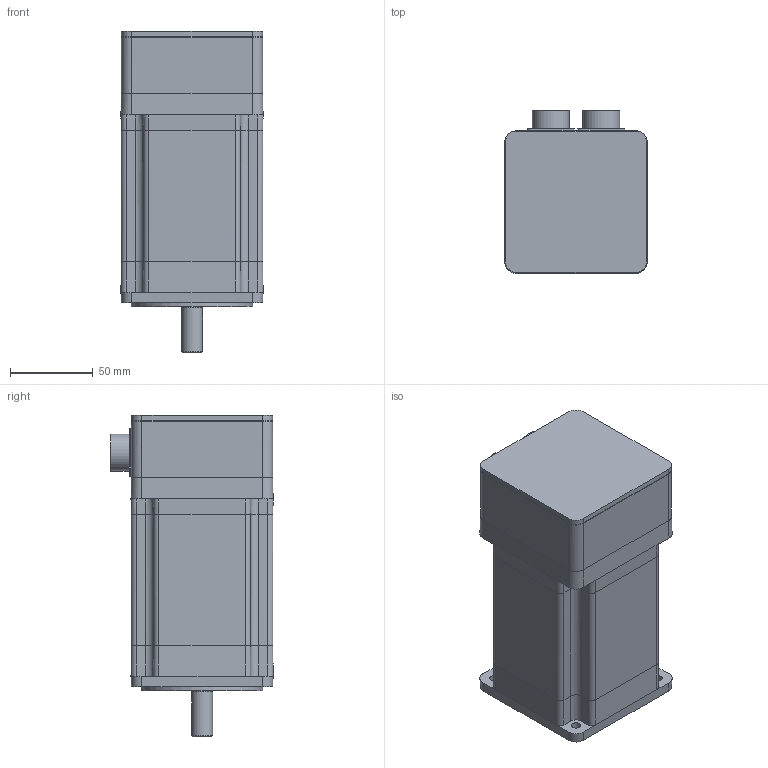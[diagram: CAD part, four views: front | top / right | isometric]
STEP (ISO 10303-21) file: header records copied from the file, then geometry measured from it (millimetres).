
FILE_DESCRIPTION((''),'2;1');
FILE_NAME('C:\CAD_work\Dummy_Modeling_Project_02-12-05\3D MODELS\BE343_MS_TQ.stp','2005-12-20T16:10:58',('jevans'),(''),'Autodesk Inventor 10','Autodesk Inventor 10','');
FILE_SCHEMA(('AUTOMOTIVE_DESIGN { 1 0 10303 214 1 1 1 1 }'));
Length unit declared in the file: inch
Products named in the file (1): BE34_MS_TQ
Bounding box: 85.66 x 97.77 x 193.93 mm (x, y, z)
Volume: 1110470.7 mm3; surface area: 86126.9 mm2
Topology: 4 solids, 4 shells, 304 faces, 724 edges, 448 vertices
Faces by surface type: plane 133, cylinder 122, bspline 31, sphere 12, cone 6
Full cylindrical faces by diameter (mm): 1.905 x26, 2.5 x2, 2.54 x4, 12.7 x1, 14.994 x1, 15 x1, 19.177 x1, 22.225 x1, 32 x1, 32.007 x1, 35.001 x1, 36.779 x1, 37.109 x1, 41.326 x3, 73.025 x1
Entity records: 8518 total; most frequent: CARTESIAN_POINT 1785, DIRECTION 1448, ORIENTED_EDGE 1242, EDGE_CURVE 621, AXIS2_PLACEMENT_3D 553, VERTEX_POINT 429, EDGE_LOOP 424, VECTOR 342
